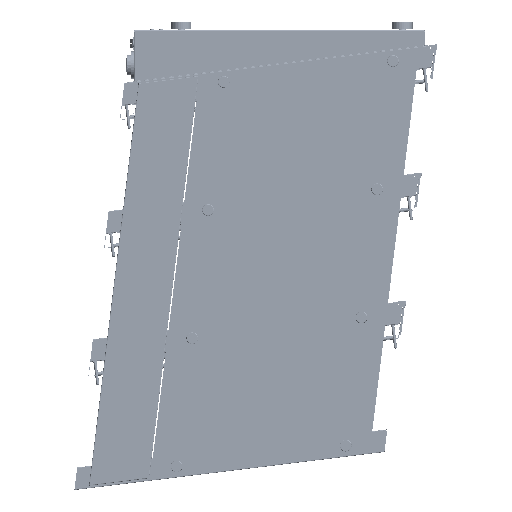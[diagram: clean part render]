
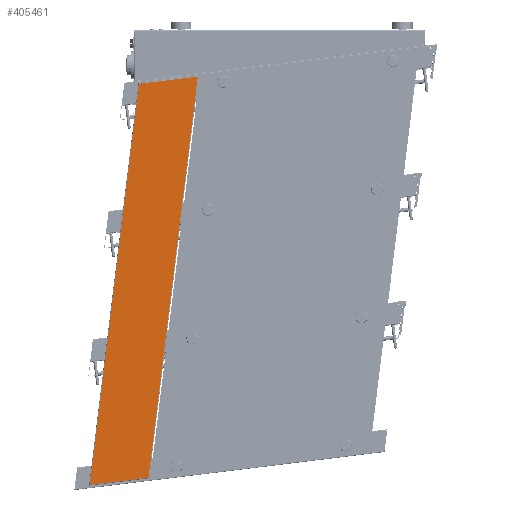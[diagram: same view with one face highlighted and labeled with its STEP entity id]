
A CAD part, left-side view. The second image highlights one B-rep face of the part: STEP entity #405461.
In plain terms, the highlighted planar face has unit normal (-1, 0, 0).
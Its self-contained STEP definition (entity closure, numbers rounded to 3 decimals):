
#7406 = EDGE_CURVE ( 'NONE', #437658, #467517, #251511, .T. ) ;
#10260 = ORIENTED_EDGE ( 'NONE', *, *, #7406, .T. ) ;
#14574 = VERTEX_POINT ( 'NONE', #299521 ) ;
#22659 = CARTESIAN_POINT ( 'NONE',  ( -175.1, -130.086, -41.916 ) ) ;
#60713 = ORIENTED_EDGE ( 'NONE', *, *, #327109, .T. ) ;
#75007 = VECTOR ( 'NONE', #310519, 1000. ) ;
#95306 = VECTOR ( 'NONE', #214046, 1000. ) ;
#101290 = DIRECTION ( 'NONE',  ( 1., 0., 0. ) ) ;
#127157 = ORIENTED_EDGE ( 'NONE', *, *, #157071, .F. ) ;
#143431 = CARTESIAN_POINT ( 'NONE',  ( -175.1, -70.423, -48.033 ) ) ;
#157071 = EDGE_CURVE ( 'NONE', #213713, #467517, #332978, .T. ) ;
#158301 = ORIENTED_EDGE ( 'NONE', *, *, #384283, .F. ) ;
#167336 = CARTESIAN_POINT ( 'NONE',  ( -175.1, 89.784, -873.007 ) ) ;
#172248 = DIRECTION ( 'NONE',  ( 0., -0.993, 0.122 ) ) ;
#175811 = DIRECTION ( 'NONE',  ( 0., 0.122, 0.993 ) ) ;
#176119 = AXIS2_PLACEMENT_3D ( 'NONE', #143431, #101290, #175811 ) ;
#199555 = DIRECTION ( 'NONE',  ( 0., -0.122, 0.993 ) ) ;
#213713 = VERTEX_POINT ( 'NONE', #22659 ) ;
#214046 = DIRECTION ( 'NONE',  ( 0., 0.122, -0.993 ) ) ;
#251511 = LINE ( 'NONE', #167336, #416890 ) ;
#257875 = EDGE_LOOP ( 'NONE', ( #158301, #10260, #127157, #60713 ) ) ;
#262623 = VECTOR ( 'NONE', #199555, 1000. ) ;
#281260 = LINE ( 'NONE', #385564, #262623 ) ;
#299521 = CARTESIAN_POINT ( 'NONE',  ( -175.1, -10.458, -56.605 ) ) ;
#310519 = DIRECTION ( 'NONE',  ( 0., 0.993, -0.122 ) ) ;
#312939 = CARTESIAN_POINT ( 'NONE',  ( -175.1, -130.086, -41.916 ) ) ;
#327109 = EDGE_CURVE ( 'NONE', #213713, #14574, #429420, .T. ) ;
#332978 = LINE ( 'NONE', #407315, #95306 ) ;
#366495 = CARTESIAN_POINT ( 'NONE',  ( -175.1, -29.845, -858.318 ) ) ;
#384283 = EDGE_CURVE ( 'NONE', #437658, #14574, #281260, .T. ) ;
#385564 = CARTESIAN_POINT ( 'NONE',  ( -175.1, 89.784, -873.007 ) ) ;
#405461 = ADVANCED_FACE ( 'NONE', ( #433767 ), #478225, .F. ) ;
#407315 = CARTESIAN_POINT ( 'NONE',  ( -175.1, -130.086, -41.916 ) ) ;
#416890 = VECTOR ( 'NONE', #172248, 1000. ) ;
#429420 = LINE ( 'NONE', #312939, #75007 ) ;
#433767 = FACE_OUTER_BOUND ( 'NONE', #257875, .T. ) ;
#437658 = VERTEX_POINT ( 'NONE', #449020 ) ;
#449020 = CARTESIAN_POINT ( 'NONE',  ( -175.1, 89.784, -873.007 ) ) ;
#467517 = VERTEX_POINT ( 'NONE', #366495 ) ;
#478225 = PLANE ( 'NONE',  #176119 ) ;
